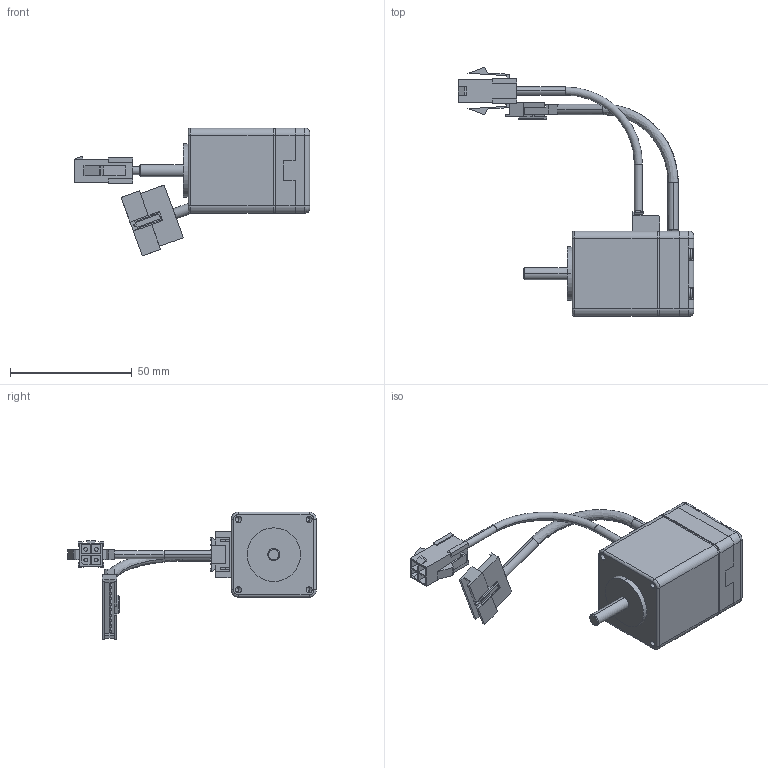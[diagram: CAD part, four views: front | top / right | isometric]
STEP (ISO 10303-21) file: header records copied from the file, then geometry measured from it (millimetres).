
FILE_DESCRIPTION (( 'STEP AP203' ), '1' );
FILE_NAME ('P11-MO-035-11-R00.STEP', '2018-12-12T06:23:01', ( '' ), ( '' ), 'SwSTEP 2.0', 'SolidWorks 2013', '' );
FILE_SCHEMA (( 'CONFIG_CONTROL_DESIGN' ));
Length unit declared in the file: millimetre
Products named in the file (11): PHR-6; 35陝 賅攪瞪錳摹-1; M41-EC-035-01-R00_ル遽; M41-EC-035-02-R00_ル遽; 20阿 浚内歹 纳捞喉急_钎霖; pan cross head_ks_KS 1023 PC- M2.6 x 16-N; 35L; S6B-PH-K-S; M11-MO-035-12-R00; 35陝 賅攪瞪錳摹-1_ル遽; P11-MO-035-11-R00
Assembly tree (14 placements, depth 3):
  P11-MO-035-11-R00
    S6B-PH-K-S
    35陝 賅攪瞪錳摹-1
      35陝 賅攪瞪錳摹-1_ル遽
      PHR-6
    M41-EC-035-01-R00_ル遽
    M41-EC-035-02-R00_ル遽
    20阿 浚内歹 纳捞喉急_钎霖
    pan cross head_ks_KS 1023 PC- M2.6 x 16-N  x4
    M11-MO-035-12-R00
      35L
      S6B-PH-K-S
Bounding box: 96.75 x 102.2 x 52.54 mm (x, y, z)
Volume: 58126.5 mm3; surface area: 26041.3 mm2
Topology: 12 solids, 12 shells, 942 faces, 2416 edges, 1523 vertices
Faces by surface type: plane 617, cylinder 173, cone 109, torus 30, sphere 8, bspline 5
Entity records: 23479 total; most frequent: CARTESIAN_POINT 4079, DIRECTION 3797, ORIENTED_EDGE 3724, EDGE_CURVE 1862, LINE 1391, VECTOR 1391, AXIS2_PLACEMENT_3D 1203, VERTEX_POINT 1188
